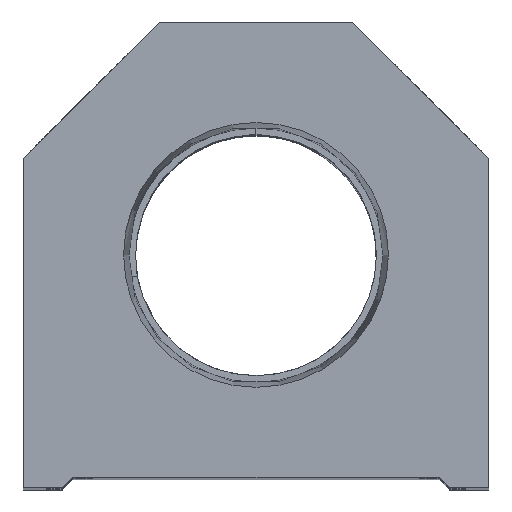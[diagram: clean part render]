
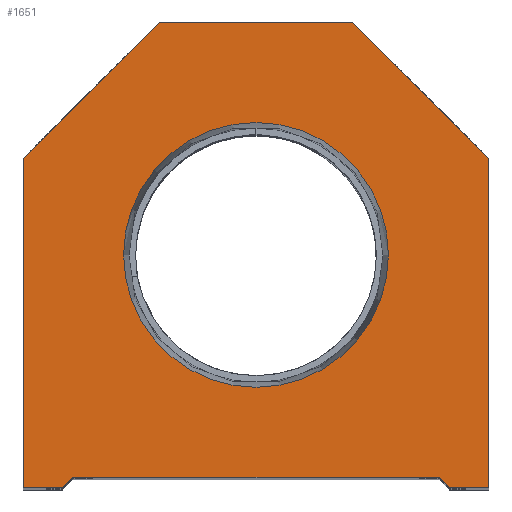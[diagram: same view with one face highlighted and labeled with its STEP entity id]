
A CAD part, top view. The second image highlights one B-rep face of the part: STEP entity #1651.
In plain terms, the highlighted planar face has unit normal (0, 0, 1).
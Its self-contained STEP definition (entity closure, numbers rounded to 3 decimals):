
#118 = ORIENTED_EDGE ( 'NONE', *, *, #13702, .T. ) ;
#238 = ORIENTED_EDGE ( 'NONE', *, *, #19166, .F. ) ;
#249 = CARTESIAN_POINT ( 'NONE',  ( -17.5, 1., 0. ) ) ;
#407 = EDGE_CURVE ( 'NONE', #12951, #8775, #11592, .T. ) ;
#814 = DIRECTION ( 'NONE',  ( 1., 0., 0. ) ) ;
#865 = CARTESIAN_POINT ( 'NONE',  ( -22.25, 0., 0. ) ) ;
#1295 = EDGE_CURVE ( 'NONE', #2232, #12951, #17911, .T. ) ;
#1411 = DIRECTION ( 'NONE',  ( 1., 0., 0. ) ) ;
#1547 = AXIS2_PLACEMENT_3D ( 'NONE', #1695, #17678, #1411 ) ;
#1651 = ADVANCED_FACE ( 'NONE', ( #4338, #5804 ), #19232, .T. ) ;
#1695 = CARTESIAN_POINT ( 'NONE',  ( 0., 22.25, 0. ) ) ;
#1772 = VECTOR ( 'NONE', #16730, 1000. ) ;
#1811 = VECTOR ( 'NONE', #8864, 1000. ) ;
#1902 = ORIENTED_EDGE ( 'NONE', *, *, #14366, .T. ) ;
#2232 = VERTEX_POINT ( 'NONE', #10349 ) ;
#2774 = DIRECTION ( 'NONE',  ( 1., 0., 0. ) ) ;
#2871 = CARTESIAN_POINT ( 'NONE',  ( 12.647, 22.25, 0. ) ) ;
#3976 = DIRECTION ( 'NONE',  ( 0., 1., 0. ) ) ;
#4228 = LINE ( 'NONE', #9029, #7291 ) ;
#4338 = FACE_BOUND ( 'NONE', #4697, .T. ) ;
#4350 = LINE ( 'NONE', #15964, #1811 ) ;
#4561 = CARTESIAN_POINT ( 'NONE',  ( 9.25, 44.5, 0. ) ) ;
#4638 = LINE ( 'NONE', #16642, #1772 ) ;
#4697 = EDGE_LOOP ( 'NONE', ( #8386, #238 ) ) ;
#5291 = CIRCLE ( 'NONE', #1547, 12.647 ) ;
#5328 = LINE ( 'NONE', #14113, #18763 ) ;
#5341 = VERTEX_POINT ( 'NONE', #7667 ) ;
#5411 = CARTESIAN_POINT ( 'NONE',  ( -9.25, 44.5, 0. ) ) ;
#5804 = FACE_OUTER_BOUND ( 'NONE', #13067, .T. ) ;
#5821 = CARTESIAN_POINT ( 'NONE',  ( -22.25, 31.5, 0. ) ) ;
#6481 = LINE ( 'NONE', #12252, #16389 ) ;
#6670 = ORIENTED_EDGE ( 'NONE', *, *, #11920, .T. ) ;
#7291 = VECTOR ( 'NONE', #17778, 1000. ) ;
#7340 = DIRECTION ( 'NONE',  ( 1., 0., 0. ) ) ;
#7474 = DIRECTION ( 'NONE',  ( 0., 0., 1. ) ) ;
#7667 = CARTESIAN_POINT ( 'NONE',  ( 22.25, 0., 0. ) ) ;
#7750 = AXIS2_PLACEMENT_3D ( 'NONE', #16808, #8246, #814 ) ;
#7991 = DIRECTION ( 'NONE',  ( 0.707, 0.707, 0. ) ) ;
#8246 = DIRECTION ( 'NONE',  ( 0., 0., 1. ) ) ;
#8296 = CARTESIAN_POINT ( 'NONE',  ( -22.25, 31.5, 0. ) ) ;
#8386 = ORIENTED_EDGE ( 'NONE', *, *, #16849, .F. ) ;
#8775 = VERTEX_POINT ( 'NONE', #5821 ) ;
#8864 = DIRECTION ( 'NONE',  ( 1., 0., 0. ) ) ;
#8947 = LINE ( 'NONE', #12047, #17310 ) ;
#9029 = CARTESIAN_POINT ( 'NONE',  ( 22.25, 31.5, 0. ) ) ;
#9302 = CIRCLE ( 'NONE', #7750, 12.647 ) ;
#9931 = VERTEX_POINT ( 'NONE', #11245 ) ;
#10025 = ORIENTED_EDGE ( 'NONE', *, *, #407, .T. ) ;
#10200 = CARTESIAN_POINT ( 'NONE',  ( -18.5, 0., 0. ) ) ;
#10210 = EDGE_CURVE ( 'NONE', #10352, #9931, #4350, .T. ) ;
#10218 = CARTESIAN_POINT ( 'NONE',  ( 0., 0., 0. ) ) ;
#10229 = DIRECTION ( 'NONE',  ( 0., -1., 0. ) ) ;
#10276 = LINE ( 'NONE', #16216, #14188 ) ;
#10349 = CARTESIAN_POINT ( 'NONE',  ( 9.25, 44.5, 0. ) ) ;
#10352 = VERTEX_POINT ( 'NONE', #249 ) ;
#10774 = VECTOR ( 'NONE', #10229, 1000. ) ;
#11245 = CARTESIAN_POINT ( 'NONE',  ( 17.5, 1., 0. ) ) ;
#11391 = ORIENTED_EDGE ( 'NONE', *, *, #10210, .T. ) ;
#11592 = LINE ( 'NONE', #8296, #17142 ) ;
#11681 = CARTESIAN_POINT ( 'NONE',  ( -22.25, 0., 0. ) ) ;
#11920 = EDGE_CURVE ( 'NONE', #14505, #10352, #5328, .T. ) ;
#12047 = CARTESIAN_POINT ( 'NONE',  ( 22.25, 0., 0. ) ) ;
#12146 = ORIENTED_EDGE ( 'NONE', *, *, #13209, .T. ) ;
#12158 = EDGE_CURVE ( 'NONE', #13635, #2232, #4228, .T. ) ;
#12252 = CARTESIAN_POINT ( 'NONE',  ( -17.5, 0., 0. ) ) ;
#12951 = VERTEX_POINT ( 'NONE', #5411 ) ;
#12960 = LINE ( 'NONE', #11681, #10774 ) ;
#13067 = EDGE_LOOP ( 'NONE', ( #1902, #6670, #11391, #18319, #12146, #118, #14917, #18629, #10025, #14207 ) ) ;
#13209 = EDGE_CURVE ( 'NONE', #18571, #5341, #10276, .T. ) ;
#13635 = VERTEX_POINT ( 'NONE', #18572 ) ;
#13639 = DIRECTION ( 'NONE',  ( -1., 0., 0. ) ) ;
#13702 = EDGE_CURVE ( 'NONE', #5341, #13635, #8947, .T. ) ;
#14113 = CARTESIAN_POINT ( 'NONE',  ( -9.25, 9.25, 0. ) ) ;
#14188 = VECTOR ( 'NONE', #7340, 1000. ) ;
#14196 = CARTESIAN_POINT ( 'NONE',  ( -12.647, 22.25, 0. ) ) ;
#14207 = ORIENTED_EDGE ( 'NONE', *, *, #15198, .T. ) ;
#14229 = DIRECTION ( 'NONE',  ( -0.707, -0.707, 0. ) ) ;
#14366 = EDGE_CURVE ( 'NONE', #17150, #14505, #6481, .T. ) ;
#14505 = VERTEX_POINT ( 'NONE', #10200 ) ;
#14917 = ORIENTED_EDGE ( 'NONE', *, *, #12158, .T. ) ;
#15198 = EDGE_CURVE ( 'NONE', #8775, #17150, #12960, .T. ) ;
#15781 = EDGE_CURVE ( 'NONE', #9931, #18571, #4638, .T. ) ;
#15833 = VERTEX_POINT ( 'NONE', #14196 ) ;
#15964 = CARTESIAN_POINT ( 'NONE',  ( -17.5, 1., 0. ) ) ;
#16216 = CARTESIAN_POINT ( 'NONE',  ( 17.5, 0., 0. ) ) ;
#16389 = VECTOR ( 'NONE', #18267, 1000. ) ;
#16642 = CARTESIAN_POINT ( 'NONE',  ( 9.25, 9.25, 0. ) ) ;
#16691 = VERTEX_POINT ( 'NONE', #2871 ) ;
#16730 = DIRECTION ( 'NONE',  ( 0.707, -0.707, 0. ) ) ;
#16782 = AXIS2_PLACEMENT_3D ( 'NONE', #10218, #7474, #2774 ) ;
#16808 = CARTESIAN_POINT ( 'NONE',  ( 0., 22.25, 0. ) ) ;
#16849 = EDGE_CURVE ( 'NONE', #16691, #15833, #9302, .T. ) ;
#17124 = VECTOR ( 'NONE', #13639, 1000. ) ;
#17142 = VECTOR ( 'NONE', #14229, 1000. ) ;
#17150 = VERTEX_POINT ( 'NONE', #865 ) ;
#17310 = VECTOR ( 'NONE', #3976, 1000. ) ;
#17406 = CARTESIAN_POINT ( 'NONE',  ( 18.5, 0., 0. ) ) ;
#17678 = DIRECTION ( 'NONE',  ( 0., 0., 1. ) ) ;
#17778 = DIRECTION ( 'NONE',  ( -0.707, 0.707, 0. ) ) ;
#17911 = LINE ( 'NONE', #4561, #17124 ) ;
#18267 = DIRECTION ( 'NONE',  ( 1., 0., 0. ) ) ;
#18319 = ORIENTED_EDGE ( 'NONE', *, *, #15781, .T. ) ;
#18571 = VERTEX_POINT ( 'NONE', #17406 ) ;
#18572 = CARTESIAN_POINT ( 'NONE',  ( 22.25, 31.5, 0. ) ) ;
#18629 = ORIENTED_EDGE ( 'NONE', *, *, #1295, .T. ) ;
#18763 = VECTOR ( 'NONE', #7991, 1000. ) ;
#19166 = EDGE_CURVE ( 'NONE', #15833, #16691, #5291, .T. ) ;
#19232 = PLANE ( 'NONE',  #16782 ) ;
